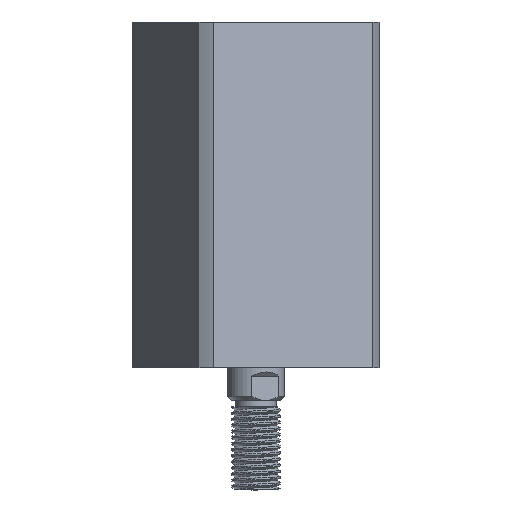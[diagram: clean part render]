
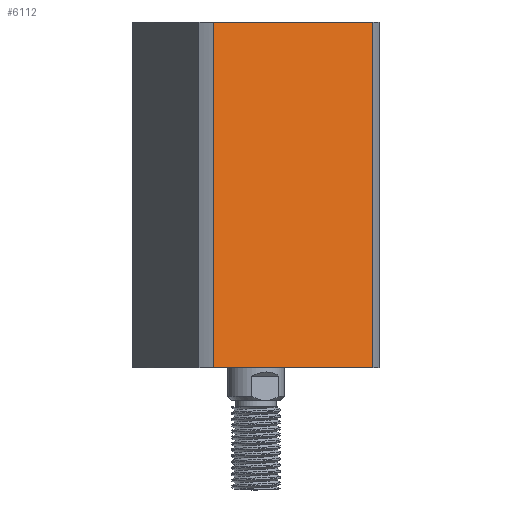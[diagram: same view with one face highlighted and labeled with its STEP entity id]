
A CAD part, left-side view. The second image highlights one B-rep face of the part: STEP entity #6112.
In plain terms, the highlighted planar face has unit normal (-0.924, -0.383, 0) as drawn and (1, 0, 0) by its records, which use the part's own axes.
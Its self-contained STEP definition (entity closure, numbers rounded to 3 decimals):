
#74 = LINE ( 'NONE', #405, #2579 ) ;
#347 = DIRECTION ( 'NONE',  ( -1., 0., 0. ) ) ;
#405 = CARTESIAN_POINT ( 'NONE',  ( 24., -21.166, -515. ) ) ;
#520 = VERTEX_POINT ( 'NONE', #7350 ) ;
#606 = EDGE_CURVE ( 'NONE', #10526, #6708, #1124, .T. ) ;
#1124 = LINE ( 'NONE', #2105, #7517 ) ;
#1178 = CARTESIAN_POINT ( 'NONE',  ( 24., 24., 85. ) ) ;
#1823 = CARTESIAN_POINT ( 'NONE',  ( 24., 24., 0. ) ) ;
#1855 = LINE ( 'NONE', #1178, #5787 ) ;
#2004 = ORIENTED_EDGE ( 'NONE', *, *, #2646, .F. ) ;
#2013 = DIRECTION ( 'NONE',  ( 0., 1., 0. ) ) ;
#2105 = CARTESIAN_POINT ( 'NONE',  ( 24., 21.166, -515. ) ) ;
#2529 = EDGE_CURVE ( 'NONE', #520, #6708, #8801, .T. ) ;
#2579 = VECTOR ( 'NONE', #7089, 1000. ) ;
#2646 = EDGE_CURVE ( 'NONE', #2932, #10526, #1855, .T. ) ;
#2932 = VERTEX_POINT ( 'NONE', #7554 ) ;
#3108 = FACE_OUTER_BOUND ( 'NONE', #10077, .T. ) ;
#3674 = CARTESIAN_POINT ( 'NONE',  ( 24., 24., 85. ) ) ;
#4347 = VECTOR ( 'NONE', #6859, 1000. ) ;
#5787 = VECTOR ( 'NONE', #2013, 1000. ) ;
#6112 = ADVANCED_FACE ( 'NONE', ( #3108 ), #10335, .F. ) ;
#6188 = DIRECTION ( 'NONE',  ( 0., -1., 0. ) ) ;
#6479 = DIRECTION ( 'NONE',  ( 0., 0., -1. ) ) ;
#6708 = VERTEX_POINT ( 'NONE', #10100 ) ;
#6859 = DIRECTION ( 'NONE',  ( 0., 1., 0. ) ) ;
#6928 = ORIENTED_EDGE ( 'NONE', *, *, #2529, .T. ) ;
#7089 = DIRECTION ( 'NONE',  ( 0., 0., 1. ) ) ;
#7222 = CARTESIAN_POINT ( 'NONE',  ( 24., 21.166, 85. ) ) ;
#7350 = CARTESIAN_POINT ( 'NONE',  ( 24., -21.166, 0. ) ) ;
#7517 = VECTOR ( 'NONE', #6479, 1000. ) ;
#7554 = CARTESIAN_POINT ( 'NONE',  ( 24., -21.166, 85. ) ) ;
#8519 = EDGE_CURVE ( 'NONE', #520, #2932, #74, .T. ) ;
#8801 = LINE ( 'NONE', #1823, #4347 ) ;
#9304 = ORIENTED_EDGE ( 'NONE', *, *, #8519, .F. ) ;
#10077 = EDGE_LOOP ( 'NONE', ( #9304, #6928, #10621, #2004 ) ) ;
#10100 = CARTESIAN_POINT ( 'NONE',  ( 24., 21.166, 0. ) ) ;
#10335 = PLANE ( 'NONE',  #10356 ) ;
#10356 = AXIS2_PLACEMENT_3D ( 'NONE', #3674, #347, #6188 ) ;
#10526 = VERTEX_POINT ( 'NONE', #7222 ) ;
#10621 = ORIENTED_EDGE ( 'NONE', *, *, #606, .F. ) ;
